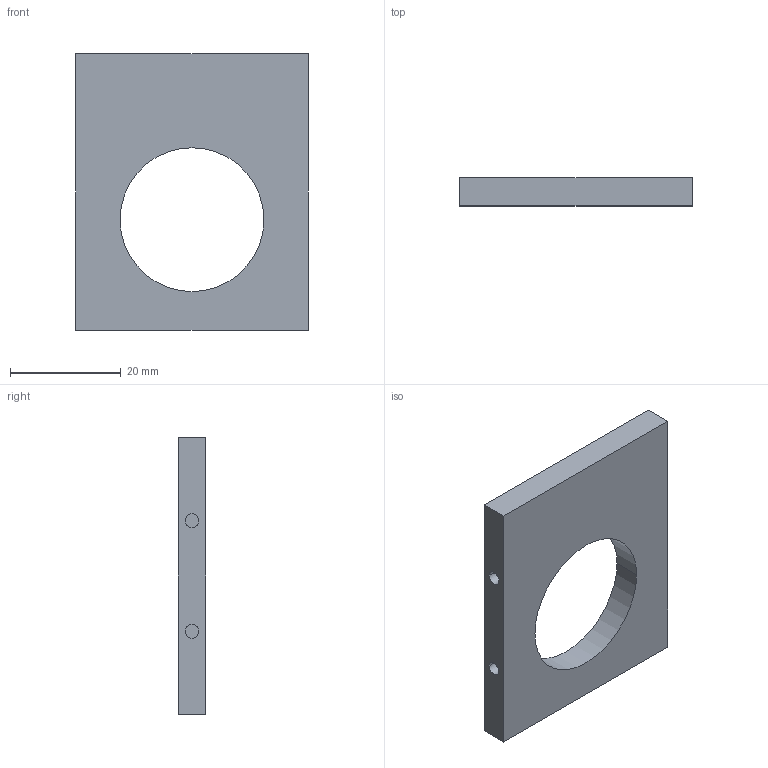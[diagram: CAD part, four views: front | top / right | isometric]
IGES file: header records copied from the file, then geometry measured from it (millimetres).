
Start section: START RECORD GO HERE.
Global section: file name: 7.igs; native system: DASSAULT SYSTEMES CATIA V5 R21 - www.3ds.com; preprocessor: CATIA Version 5 Release 21 ; author: E___; organization: MSI; date: 20160805.153922; units: millimetre
Bounding box: 42 x 5 x 50 mm (x, y, z)
Surface area: 4592.2 mm2 (no closed solid volume)
Topology: 0 solids, 0 shells, 20 faces, 84 edges, 84 vertices
Faces by surface type: plane 10, revolution 10
